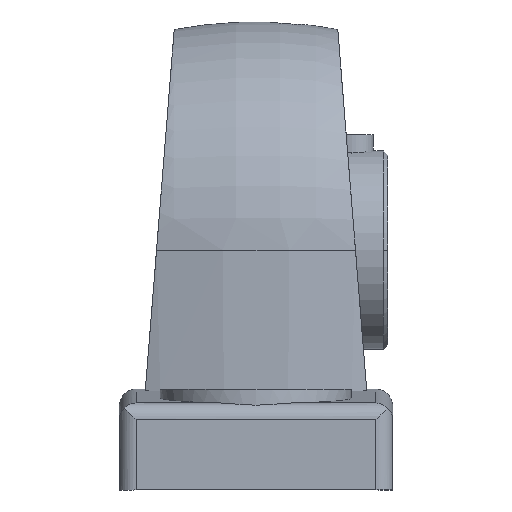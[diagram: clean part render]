
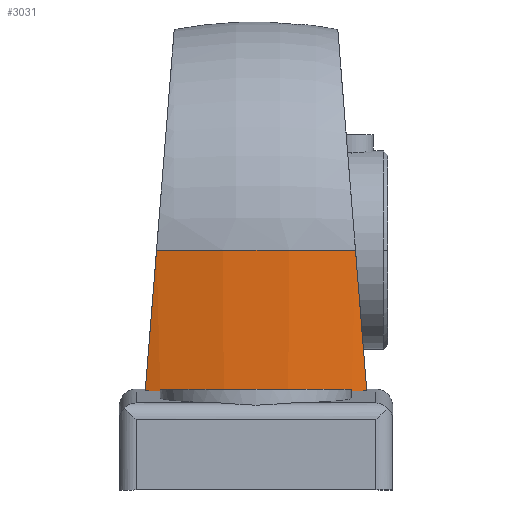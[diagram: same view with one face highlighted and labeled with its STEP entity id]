
A CAD part, front view. The second image highlights one B-rep face of the part: STEP entity #3031.
In plain terms, the highlighted cylindrical face has radius 60.579 mm (diameter 121.158 mm), a partial arc.
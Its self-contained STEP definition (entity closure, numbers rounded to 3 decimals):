
#74 = CARTESIAN_POINT ( 'NONE',  ( -13.81, -30.105, 0. ) ) ;
#130 = CARTESIAN_POINT ( 'NONE',  ( -14.334, -29.982, -6.537 ) ) ;
#186 = VERTEX_POINT ( 'NONE', #11370 ) ;
#341 = AXIS2_PLACEMENT_3D ( 'NONE', #9840, #1711, #3566 ) ;
#381 = EDGE_CURVE ( 'NONE', #8594, #10344, #10868, .T. ) ;
#391 = CARTESIAN_POINT ( 'NONE',  ( 15.377, -29.716, -19.547 ) ) ;
#570 = CARTESIAN_POINT ( 'NONE',  ( -13.3, -30.222, -19.3 ) ) ;
#822 = EDGE_CURVE ( 'NONE', #2823, #8594, #3767, .T. ) ;
#961 = ORIENTED_EDGE ( 'NONE', *, *, #822, .F. ) ;
#1042 = EDGE_CURVE ( 'NONE', #11263, #11423, #5635, .T. ) ;
#1343 = EDGE_CURVE ( 'NONE', #11263, #2931, #11660, .T. ) ;
#1345 = VERTEX_POINT ( 'NONE', #570 ) ;
#1483 = EDGE_CURVE ( 'NONE', #1345, #186, #3681, .T. ) ;
#1711 = DIRECTION ( 'NONE',  ( 0., 0., 1. ) ) ;
#2171 = AXIS2_PLACEMENT_3D ( 'NONE', #2638, #4388, #5438 ) ;
#2254 = CARTESIAN_POINT ( 'NONE',  ( 15.377, -29.716, -19.547 ) ) ;
#2638 = CARTESIAN_POINT ( 'NONE',  ( 0., 28.879, 0. ) ) ;
#2739 = CARTESIAN_POINT ( 'NONE',  ( -14.688, -29.897, -19.557 ) ) ;
#2823 = VERTEX_POINT ( 'NONE', #8233 ) ;
#2931 = VERTEX_POINT ( 'NONE', #391 ) ;
#3031 = ADVANCED_FACE ( 'NONE', ( #10479 ), #9829, .T. ) ;
#3091 =( BOUNDED_CURVE ( )  B_SPLINE_CURVE ( 3, ( #4732, #2739, #7437, #11029 ),
 .UNSPECIFIED., .F., .T. ) 
 B_SPLINE_CURVE_WITH_KNOTS ( ( 4, 4 ),
 ( 2.885, 2.92 ),
 .UNSPECIFIED. ) 
 CURVE ( )  GEOMETRIC_REPRESENTATION_ITEM ( )  RATIONAL_B_SPLINE_CURVE ( ( 1., 1., 1., 1. ) ) 
 REPRESENTATION_ITEM ( '' )  );
#3276 = CARTESIAN_POINT ( 'NONE',  ( 14.334, -29.982, -6.537 ) ) ;
#3520 = CARTESIAN_POINT ( 'NONE',  ( 13.3, -30.222, -19.3 ) ) ;
#3566 = DIRECTION ( 'NONE',  ( 1., 0., 0. ) ) ;
#3681 = LINE ( 'NONE', #11764, #11211 ) ;
#3767 = B_SPLINE_CURVE_WITH_KNOTS ( 'NONE', 3,
 ( #10303, #11268, #130, #74 ),
 .UNSPECIFIED., .F., .F.,
 ( 4, 4 ),
 ( 0., 1. ),
 .UNSPECIFIED. ) ;
#3955 = EDGE_CURVE ( 'NONE', #1345, #11423, #7750, .T. ) ;
#4158 = CARTESIAN_POINT ( 'NONE',  ( -13.81, -30.105, 0. ) ) ;
#4306 = CARTESIAN_POINT ( 'NONE',  ( 14.688, -29.897, -19.557 ) ) ;
#4388 = DIRECTION ( 'NONE',  ( 0., 0., 1. ) ) ;
#4442 = CARTESIAN_POINT ( 'NONE',  ( 13.81, -30.105, 0. ) ) ;
#4524 = ORIENTED_EDGE ( 'NONE', *, *, #7152, .F. ) ;
#4732 = CARTESIAN_POINT ( 'NONE',  ( -15.377, -29.716, -19.547 ) ) ;
#5438 = DIRECTION ( 'NONE',  ( 0., -1., 0. ) ) ;
#5635 = LINE ( 'NONE', #10339, #7027 ) ;
#5777 = AXIS2_PLACEMENT_3D ( 'NONE', #6218, #6334, #9888 ) ;
#6218 = CARTESIAN_POINT ( 'NONE',  ( 0., 28.879, 0. ) ) ;
#6334 = DIRECTION ( 'NONE',  ( 0., 0., 1. ) ) ;
#7011 = CARTESIAN_POINT ( 'NONE',  ( 15.377, -29.716, -19.547 ) ) ;
#7027 = VECTOR ( 'NONE', #9452, 1000. ) ;
#7152 = EDGE_CURVE ( 'NONE', #10344, #2931, #10088, .T. ) ;
#7244 = CARTESIAN_POINT ( 'NONE',  ( 13.81, -30.105, 0. ) ) ;
#7437 = CARTESIAN_POINT ( 'NONE',  ( -13.995, -30.066, -19.565 ) ) ;
#7750 = CIRCLE ( 'NONE', #341, 60.579 ) ;
#8233 = CARTESIAN_POINT ( 'NONE',  ( -15.377, -29.716, -19.547 ) ) ;
#8594 = VERTEX_POINT ( 'NONE', #4158 ) ;
#8764 = CARTESIAN_POINT ( 'NONE',  ( 13.3, -30.222, -19.574 ) ) ;
#8804 = ORIENTED_EDGE ( 'NONE', *, *, #1042, .F. ) ;
#8934 = CARTESIAN_POINT ( 'NONE',  ( 14.857, -29.852, -13.053 ) ) ;
#8936 = CARTESIAN_POINT ( 'NONE',  ( 13.995, -30.066, -19.565 ) ) ;
#8972 = EDGE_CURVE ( 'NONE', #2823, #186, #3091, .T. ) ;
#9452 = DIRECTION ( 'NONE',  ( 0., 0., 1. ) ) ;
#9829 = CYLINDRICAL_SURFACE ( 'NONE', #5777, 60.579 ) ;
#9840 = CARTESIAN_POINT ( 'NONE',  ( 0., 28.879, -19.3 ) ) ;
#9888 = DIRECTION ( 'NONE',  ( 1., 0., 0. ) ) ;
#9954 = EDGE_LOOP ( 'NONE', ( #4524, #11756, #961, #10321, #10595, #11938, #8804, #10406 ) ) ;
#10063 = DIRECTION ( 'NONE',  ( 0., 0., -1. ) ) ;
#10088 = B_SPLINE_CURVE_WITH_KNOTS ( 'NONE', 3,
 ( #7244, #3276, #8934, #7011 ),
 .UNSPECIFIED., .F., .F.,
 ( 4, 4 ),
 ( 0., 1. ),
 .UNSPECIFIED. ) ;
#10303 = CARTESIAN_POINT ( 'NONE',  ( -15.377, -29.716, -19.547 ) ) ;
#10321 = ORIENTED_EDGE ( 'NONE', *, *, #8972, .T. ) ;
#10339 = CARTESIAN_POINT ( 'NONE',  ( 13.3, -30.222, -20.566 ) ) ;
#10344 = VERTEX_POINT ( 'NONE', #4442 ) ;
#10406 = ORIENTED_EDGE ( 'NONE', *, *, #1343, .T. ) ;
#10479 = FACE_OUTER_BOUND ( 'NONE', #9954, .T. ) ;
#10595 = ORIENTED_EDGE ( 'NONE', *, *, #1483, .F. ) ;
#10868 = CIRCLE ( 'NONE', #2171, 60.579 ) ;
#11029 = CARTESIAN_POINT ( 'NONE',  ( -13.3, -30.222, -19.574 ) ) ;
#11168 = CARTESIAN_POINT ( 'NONE',  ( 13.3, -30.222, -19.574 ) ) ;
#11211 = VECTOR ( 'NONE', #10063, 1000. ) ;
#11263 = VERTEX_POINT ( 'NONE', #11168 ) ;
#11268 = CARTESIAN_POINT ( 'NONE',  ( -14.857, -29.852, -13.053 ) ) ;
#11370 = CARTESIAN_POINT ( 'NONE',  ( -13.3, -30.222, -19.574 ) ) ;
#11423 = VERTEX_POINT ( 'NONE', #3520 ) ;
#11660 =( BOUNDED_CURVE ( )  B_SPLINE_CURVE ( 3, ( #8764, #8936, #4306, #2254 ),
 .UNSPECIFIED., .F., .T. ) 
 B_SPLINE_CURVE_WITH_KNOTS ( ( 4, 4 ),
 ( 3.363, 3.398 ),
 .UNSPECIFIED. ) 
 CURVE ( )  GEOMETRIC_REPRESENTATION_ITEM ( )  RATIONAL_B_SPLINE_CURVE ( ( 1., 1., 1., 1. ) ) 
 REPRESENTATION_ITEM ( '' )  );
#11756 = ORIENTED_EDGE ( 'NONE', *, *, #381, .F. ) ;
#11764 = CARTESIAN_POINT ( 'NONE',  ( -13.3, -30.222, -20.566 ) ) ;
#11938 = ORIENTED_EDGE ( 'NONE', *, *, #3955, .T. ) ;
